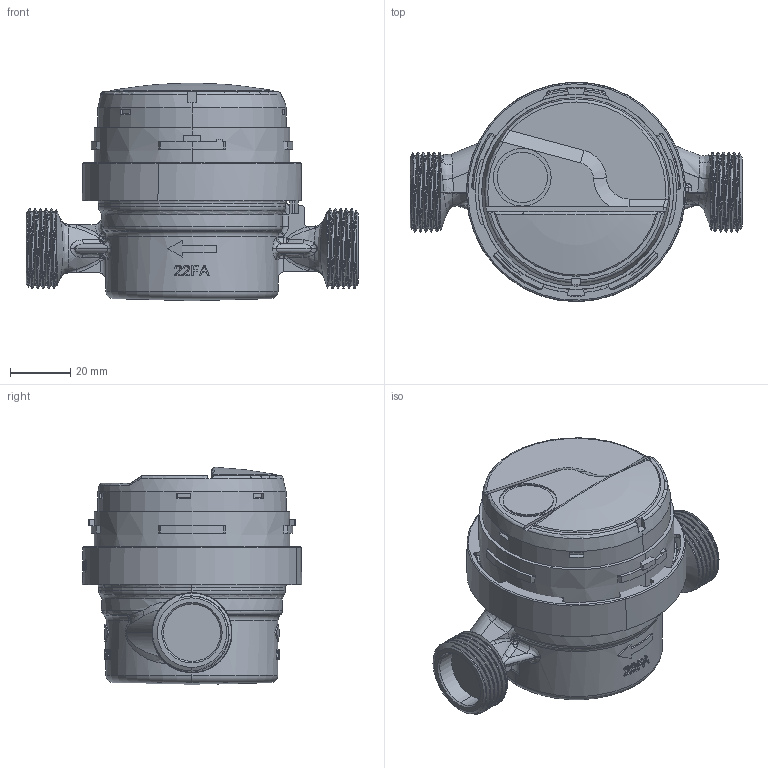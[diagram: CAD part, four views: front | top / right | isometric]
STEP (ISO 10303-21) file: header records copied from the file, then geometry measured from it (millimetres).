
FILE_DESCRIPTION (( 'STEP AP214' ), '1' );
FILE_NAME ('JS-1,6-07.STEP', '2025-06-06T07:59:55', ( '' ), ( '' ), 'SwSTEP 2.0', 'SolidWorks 2019', '' );
FILE_SCHEMA (( 'AUTOMOTIVE_DESIGN' ));
Length unit declared in the file: millimetre
Products named in the file (9): 9004-750201.STEP; JS90-1,6-07.STEP; 9004-750202_zagi_ta.STEP; 9004-750200.STEP; Liczyd_o.STEP; szklanka.STEP; JS-1,6-07; JS1,6-051.STEP; 9060-000022.STEP
Assembly tree (8 placements, depth 4):
  JS-1,6-07
    JS90-1,6-07.STEP
      9004-750200.STEP
        9004-750201.STEP
        9004-750202_zagi_ta.STEP
      JS1,6-051.STEP
      Liczyd_o.STEP
      szklanka.STEP
      9060-000022.STEP
Bounding box: 110 x 72.69 x 72.04 mm (x, y, z)
Volume: 206592.8 mm3; surface area: 62241 mm2
Topology: 6 solids, 15 shells, 1936 faces, 5477 edges, 3609 vertices
Faces by surface type: plane 777, bspline 511, cylinder 431, cone 139, torus 64, sphere 14
Entity records: 123770 total; most frequent: CARTESIAN_POINT 70722, ORIENTED_EDGE 10896, DIRECTION 7731, EDGE_CURVE 5448, VERTEX_POINT 3609, AXIS2_PLACEMENT_3D 2871, EDGE_LOOP 2091, LINE 1989
